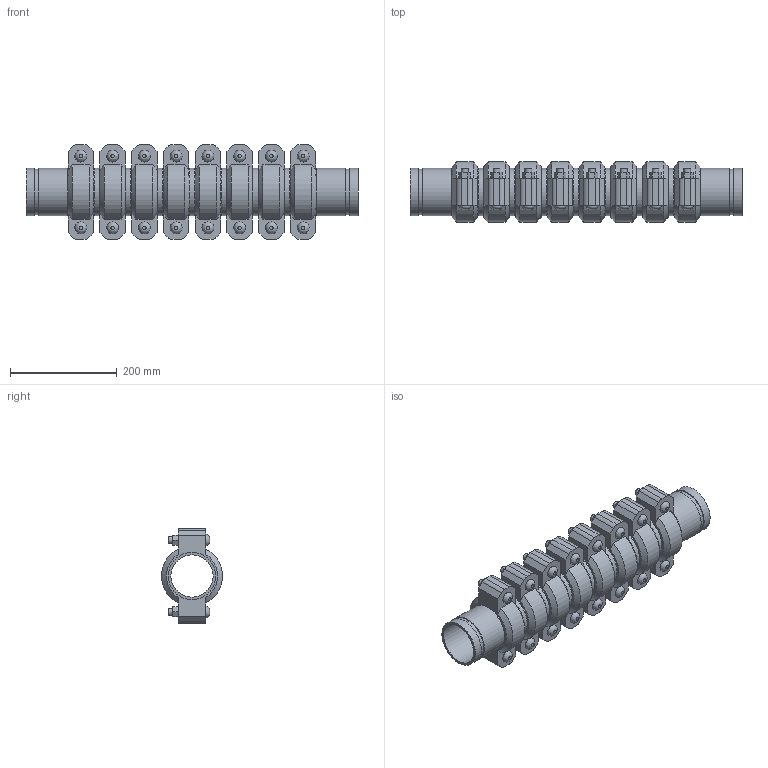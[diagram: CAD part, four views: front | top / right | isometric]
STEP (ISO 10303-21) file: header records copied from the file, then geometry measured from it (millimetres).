
FILE_DESCRIPTION(/* description */ ('VIC SS EXPANSION JOINT 8 COUPLINGS NEUTRAL STYLE 155P (OGS) (POTABLE WATER) ','CAx-IF Rec.Pracs.---Representation and Presentation of Product Manufacturing Information (PMI)---4.0---2014-10-13'),/* implementation_level */ '2;1');
FILE_NAME(/* name */ 'C:\Users\kkamble\AppData\Roaming\Autodesk\ApplicationPlugins\Victaulic.Temp\A279\Victaulic_SS_Expansion Joint_Neutral_8 Couplings_Style 155P (OGS)-Potable Water_8 Coup_Neut_3 (80).stp',/* time_stamp */ '2021-07-16T16:38:39+05:00',/* author */ ('kkamble'),/* organization */ ('Victaulic'),/* preprocessor_version */ 'ST-DEVELOPER v17.2',/* originating_system */ 'Autodesk Inventor 2019',/* authorisation */ '');
FILE_SCHEMA (('AP242_MANAGED_MODEL_BASED_3D_ENGINEERING_MIM_LF { 1 0 10303 442 1 1 4 }'));
Length unit declared in the file: inch
Products named in the file (4): 155P-03.0; Nipple-03.0; Nipple-03.0_1; 075-03.0
Assembly tree (17 placements, depth 2):
  155P-03.0
    Nipple-03.0  x2
    Nipple-03.0_1  x7
    075-03.0  x8
Bounding box: 622.3 x 113.88 x 177.8 mm (x, y, z)
Volume: 3352110.6 mm3; surface area: 847442.6 mm2
Topology: 17 solids, 33 shells, 564 faces, 1334 edges, 936 vertices
Faces by surface type: plane 342, cylinder 174, cone 32, bspline 16
Full cylindrical faces by diameter (mm): 12.7 x32, 14.605 x16, 79.35 x9, 82.55 x8, 84.938 x18, 88.9 x43
Entity records: 2849 total; most frequent: CARTESIAN_POINT 501, DIRECTION 477, ORIENTED_EDGE 386, EDGE_CURVE 193, AXIS2_PLACEMENT_3D 192, VERTEX_POINT 138, EDGE_LOOP 107, LINE 93
